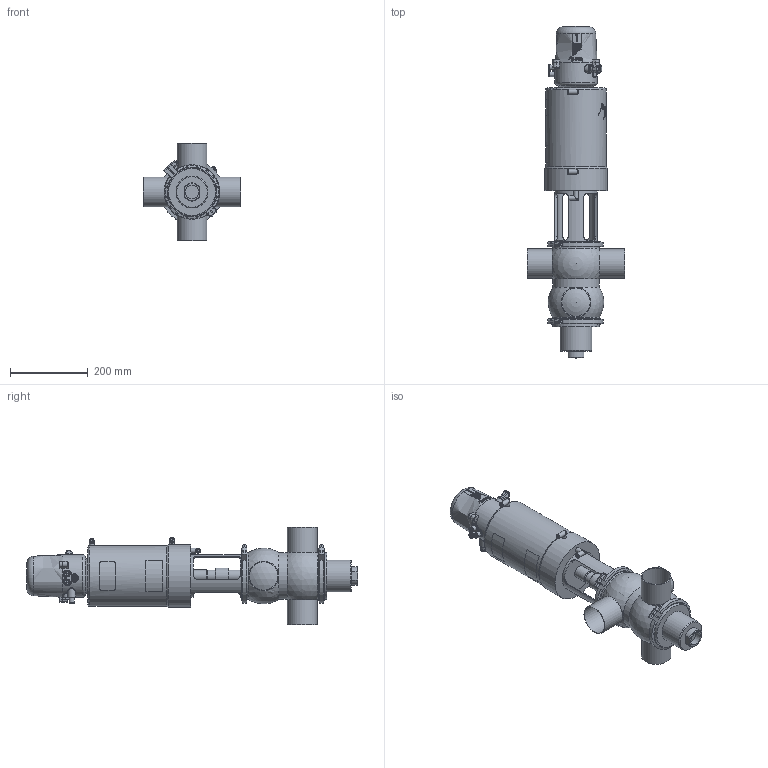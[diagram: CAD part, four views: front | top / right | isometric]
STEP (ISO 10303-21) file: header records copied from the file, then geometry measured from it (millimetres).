
FILE_DESCRIPTION (( 'STEP AP214' ), '1' );
FILE_NAME ('INNOVA P CB-90 W OD 3 & C-TOP S_10.250.16.0015.STEP', '2024-08-09T11:47:51', ( '' ), ( '' ), 'SwSTEP 2.0', 'SolidWorks 2023', '' );
FILE_SCHEMA (( 'AUTOMOTIVE_DESIGN' ));
Length unit declared in the file: millimetre
Products named in the file (7): 10.240.15.0001_DN 080; 10.250.15.0002_Type P T2; INNOVA P CB-90 W OD 3 & C-TOP S_10.250.16.0015; 10.250.15.0001_OD 3"; 10.426.15.0001_C-TOP S - 3 EV; 10.250.15.0003_DN 3"; 10.251.15.0007_OD 3"
Assembly tree (7 placements, depth 2):
  INNOVA P CB-90 W OD 3 & C-TOP S_10.250.16.0015
    10.250.15.0001_OD 3"
    10.250.15.0002_Type P T2
    10.426.15.0001_C-TOP S - 3 EV
    10.251.15.0007_OD 3"
    10.240.15.0001_DN 080  x2
    10.250.15.0003_DN 3"
Bounding box: 250 x 851.6 x 250 mm (x, y, z)
Volume: 10293625.1 mm3; surface area: 681701.5 mm2
Topology: 7 solids, 7 shells, 1210 faces, 2908 edges, 1934 vertices
Faces by surface type: plane 414, cylinder 387, cone 204, bspline 162, torus 33, sphere 10
Full cylindrical faces by diameter (mm): 0.371 x17, 0.512 x16, 0.658 x16, 0.795 x16, 0.94 x15, 1.098 x15, 1.241 x13, 1.382 x13, 1.523 x11, 1.669 x10, 2.201 x1, 4.2 x2, 5 x1, 5.5 x2, 6 x4, 6.15 x3, 8 x5, 10 x1, 10.5 x3, 11 x4, 12.5 x9, 13 x6, 13.5 x2, 17 x3, 20 x2, 22 x2, 30.5 x2, 32 x1, 35 x1, 41 x1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
Entity records: 60189 total; most frequent: CARTESIAN_POINT 28676, ORIENTED_EDGE 4612, DIRECTION 3777, EDGE_CURVE 2306, VERTEX_POINT 1648, EDGE_LOOP 1640, AXIS2_PLACEMENT_3D 1558, FACE_OUTER_BOUND 1383
